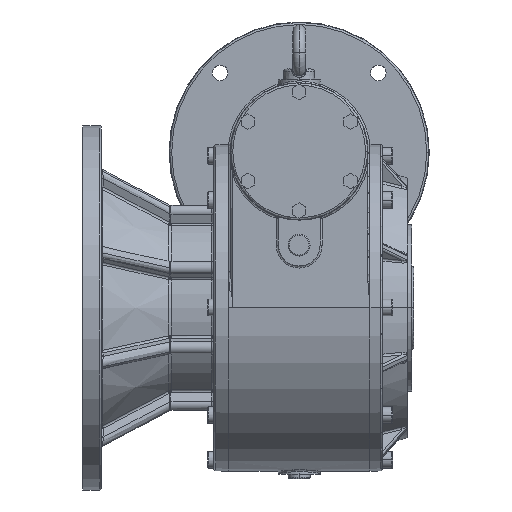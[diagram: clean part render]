
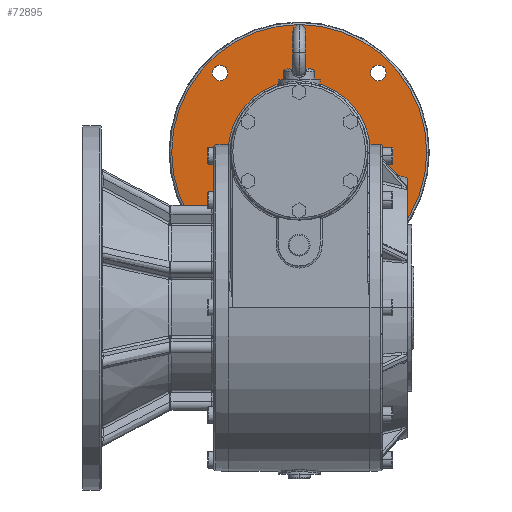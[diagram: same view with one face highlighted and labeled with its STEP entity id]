
A CAD part, top view. The second image highlights one B-rep face of the part: STEP entity #72895.
In plain terms, the highlighted planar face has unit normal (0, 0, 1).
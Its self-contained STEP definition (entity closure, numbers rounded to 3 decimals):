
#14905 = CARTESIAN_POINT ( 'NONE',  ( -68.514, 73.986, -173. ) ) ;
#14906 = CARTESIAN_POINT ( 'NONE',  ( -83.514, 73.986, -173. ) ) ;
#14907 = DIRECTION ( 'NONE',  ( -1., 0., 0. ) ) ;
#14908 = DIRECTION ( 'NONE',  ( 0., 0., 1. ) ) ;
#14909 = CARTESIAN_POINT ( 'NONE',  ( -76.014, 73.986, -173. ) ) ;
#14910 = AXIS2_PLACEMENT_3D ( 'NONE', #14909, #14908, #14907 ) ;
#14911 = CIRCLE ( 'NONE', #14910, 7.5 ) ;
#15012 = CARTESIAN_POINT ( 'NONE',  ( -68.514, 226.014, -173. ) ) ;
#15013 = CARTESIAN_POINT ( 'NONE',  ( -83.514, 226.014, -173. ) ) ;
#15014 = DIRECTION ( 'NONE',  ( -1., 0., 0. ) ) ;
#15015 = DIRECTION ( 'NONE',  ( 0., 0., 1. ) ) ;
#15016 = CARTESIAN_POINT ( 'NONE',  ( -76.014, 226.014, -173. ) ) ;
#15017 = AXIS2_PLACEMENT_3D ( 'NONE', #15016, #15015, #15014 ) ;
#15018 = CIRCLE ( 'NONE', #15017, 7.5 ) ;
#15069 = CARTESIAN_POINT ( 'NONE',  ( 83.514, 73.986, -173. ) ) ;
#15070 = CARTESIAN_POINT ( 'NONE',  ( 68.514, 73.986, -173. ) ) ;
#15071 = DIRECTION ( 'NONE',  ( -1., 0., 0. ) ) ;
#15073 = DIRECTION ( 'NONE',  ( 0., 0., 1. ) ) ;
#15074 = CARTESIAN_POINT ( 'NONE',  ( 76.014, 73.986, -173. ) ) ;
#15075 = AXIS2_PLACEMENT_3D ( 'NONE', #15074, #15073, #15071 ) ;
#15076 = CIRCLE ( 'NONE', #15075, 7.5 ) ;
#15101 = CARTESIAN_POINT ( 'NONE',  ( -68.281, 150., -173. ) ) ;
#15116 = CARTESIAN_POINT ( 'NONE',  ( 68.281, 150., -173. ) ) ;
#15122 = CARTESIAN_POINT ( 'NONE',  ( 83.514, 226.014, -173. ) ) ;
#15123 = CARTESIAN_POINT ( 'NONE',  ( 68.514, 226.014, -173. ) ) ;
#15124 = DIRECTION ( 'NONE',  ( -1., 0., 0. ) ) ;
#15125 = DIRECTION ( 'NONE',  ( 0., 0., 1. ) ) ;
#15127 = CARTESIAN_POINT ( 'NONE',  ( 76.014, 226.014, -173. ) ) ;
#15128 = AXIS2_PLACEMENT_3D ( 'NONE', #15127, #15125, #15124 ) ;
#15129 = CIRCLE ( 'NONE', #15128, 7.5 ) ;
#15193 = CARTESIAN_POINT ( 'NONE',  ( -122.545, 150., -173. ) ) ;
#15248 = DIRECTION ( 'NONE',  ( 1., 0., 0. ) ) ;
#15249 = DIRECTION ( 'NONE',  ( 0., 0., 1. ) ) ;
#15250 = CARTESIAN_POINT ( 'NONE',  ( 0., 150., -173. ) ) ;
#15251 = AXIS2_PLACEMENT_3D ( 'NONE', #15250, #15249, #15248 ) ;
#15252 = CIRCLE ( 'NONE', #15251, 122.545 ) ;
#17951 = CARTESIAN_POINT ( 'NONE',  ( 122.545, 150., -173. ) ) ;
#17968 = DIRECTION ( 'NONE',  ( 1., 0., 0. ) ) ;
#17969 = DIRECTION ( 'NONE',  ( 0., 0., 1. ) ) ;
#17970 = CARTESIAN_POINT ( 'NONE',  ( 0., 150., -173. ) ) ;
#17971 = AXIS2_PLACEMENT_3D ( 'NONE', #17970, #17969, #17968 ) ;
#17972 = CIRCLE ( 'NONE', #17971, 68.281 ) ;
#70315 = EDGE_CURVE ( 'NONE', #70317, #70318, #14911, .T. ) ;
#70317 = VERTEX_POINT ( 'NONE', #14906 ) ;
#70318 = VERTEX_POINT ( 'NONE', #14905 ) ;
#70365 = EDGE_CURVE ( 'NONE', #70367, #70368, #15018, .T. ) ;
#70367 = VERTEX_POINT ( 'NONE', #15013 ) ;
#70368 = VERTEX_POINT ( 'NONE', #15012 ) ;
#70372 = EDGE_CURVE ( 'NONE', #70374, #70375, #15076, .T. ) ;
#70374 = VERTEX_POINT ( 'NONE', #15070 ) ;
#70375 = VERTEX_POINT ( 'NONE', #15069 ) ;
#70392 = VERTEX_POINT ( 'NONE', #15101 ) ;
#70413 = EDGE_CURVE ( 'NONE', #70414, #70416, #15129, .T. ) ;
#70414 = VERTEX_POINT ( 'NONE', #15123 ) ;
#70416 = VERTEX_POINT ( 'NONE', #15122 ) ;
#70418 = VERTEX_POINT ( 'NONE', #15116 ) ;
#70438 = VERTEX_POINT ( 'NONE', #15193 ) ;
#70444 = VERTEX_POINT ( 'NONE', #17951 ) ;
#70466 = EDGE_CURVE ( 'NONE', #70444, #70438, #15252, .T. ) ;
#70495 = EDGE_CURVE ( 'NONE', #70392, #70418, #17972, .T. ) ;
#72818 = ORIENTED_EDGE ( 'NONE', *, *, #70372, .F. ) ;
#72819 = ORIENTED_EDGE ( 'NONE', *, *, #72821, .F. ) ;
#72821 = EDGE_CURVE ( 'NONE', #70375, #70374, #118403, .T. ) ;
#72822 = EDGE_LOOP ( 'NONE', ( #72823, #72857 ) ) ;
#72823 = ORIENTED_EDGE ( 'NONE', *, *, #70315, .F. ) ;
#72825 = EDGE_LOOP ( 'NONE', ( #72863, #72864 ) ) ;
#72857 = ORIENTED_EDGE ( 'NONE', *, *, #72861, .F. ) ;
#72861 = EDGE_CURVE ( 'NONE', #70318, #70317, #118450, .T. ) ;
#72863 = ORIENTED_EDGE ( 'NONE', *, *, #70365, .F. ) ;
#72864 = ORIENTED_EDGE ( 'NONE', *, *, #72866, .F. ) ;
#72866 = EDGE_CURVE ( 'NONE', #70368, #70367, #118443, .T. ) ;
#72867 = EDGE_LOOP ( 'NONE', ( #72868, #72870 ) ) ;
#72868 = ORIENTED_EDGE ( 'NONE', *, *, #70413, .F. ) ;
#72870 = ORIENTED_EDGE ( 'NONE', *, *, #72871, .F. ) ;
#72871 = EDGE_CURVE ( 'NONE', #70416, #70414, #118433, .T. ) ;
#72872 = EDGE_LOOP ( 'NONE', ( #72873, #72876 ) ) ;
#72873 = ORIENTED_EDGE ( 'NONE', *, *, #72874, .F. ) ;
#72874 = EDGE_CURVE ( 'NONE', #70418, #70392, #118428, .T. ) ;
#72876 = ORIENTED_EDGE ( 'NONE', *, *, #70495, .F. ) ;
#72877 = EDGE_LOOP ( 'NONE', ( #72913, #72914 ) ) ;
#72892 = EDGE_CURVE ( 'NONE', #70438, #70444, #118507, .T. ) ;
#72895 = ADVANCED_FACE ( 'NONE', ( #118501, #118500, #118499, #118498, #118497, #118496 ), #118495, .F. ) ;
#72897 = EDGE_LOOP ( 'NONE', ( #72818, #72819 ) ) ;
#72913 = ORIENTED_EDGE ( 'NONE', *, *, #70466, .T. ) ;
#72914 = ORIENTED_EDGE ( 'NONE', *, *, #72892, .T. ) ;
#118399 = DIRECTION ( 'NONE',  ( -1., 0., 0. ) ) ;
#118400 = DIRECTION ( 'NONE',  ( 0., 0., 1. ) ) ;
#118401 = CARTESIAN_POINT ( 'NONE',  ( 76.014, 73.986, -173. ) ) ;
#118402 = AXIS2_PLACEMENT_3D ( 'NONE', #118401, #118400, #118399 ) ;
#118403 = CIRCLE ( 'NONE', #118402, 7.5 ) ;
#118424 = DIRECTION ( 'NONE',  ( 1., 0., 0. ) ) ;
#118425 = DIRECTION ( 'NONE',  ( 0., 0., 1. ) ) ;
#118426 = CARTESIAN_POINT ( 'NONE',  ( 0., 150., -173. ) ) ;
#118427 = AXIS2_PLACEMENT_3D ( 'NONE', #118426, #118425, #118424 ) ;
#118428 = CIRCLE ( 'NONE', #118427, 68.281 ) ;
#118429 = DIRECTION ( 'NONE',  ( -1., 0., 0. ) ) ;
#118430 = DIRECTION ( 'NONE',  ( 0., 0., 1. ) ) ;
#118431 = CARTESIAN_POINT ( 'NONE',  ( 76.014, 226.014, -173. ) ) ;
#118432 = AXIS2_PLACEMENT_3D ( 'NONE', #118431, #118430, #118429 ) ;
#118433 = CIRCLE ( 'NONE', #118432, 7.5 ) ;
#118439 = DIRECTION ( 'NONE',  ( -1., 0., 0. ) ) ;
#118440 = DIRECTION ( 'NONE',  ( 0., 0., 1. ) ) ;
#118441 = CARTESIAN_POINT ( 'NONE',  ( -76.014, 226.014, -173. ) ) ;
#118442 = AXIS2_PLACEMENT_3D ( 'NONE', #118441, #118440, #118439 ) ;
#118443 = CIRCLE ( 'NONE', #118442, 7.5 ) ;
#118446 = DIRECTION ( 'NONE',  ( -1., 0., 0. ) ) ;
#118447 = DIRECTION ( 'NONE',  ( 0., 0., 1. ) ) ;
#118448 = CARTESIAN_POINT ( 'NONE',  ( -76.014, 73.986, -173. ) ) ;
#118449 = AXIS2_PLACEMENT_3D ( 'NONE', #118448, #118447, #118446 ) ;
#118450 = CIRCLE ( 'NONE', #118449, 7.5 ) ;
#118491 = DIRECTION ( 'NONE',  ( -1., 0., 0. ) ) ;
#118492 = DIRECTION ( 'NONE',  ( 0., 0., -1. ) ) ;
#118493 = CARTESIAN_POINT ( 'NONE',  ( 0., 218.281, -173. ) ) ;
#118494 = AXIS2_PLACEMENT_3D ( 'NONE', #118493, #118492, #118491 ) ;
#118495 = PLANE ( 'NONE',  #118494 ) ;
#118496 = FACE_OUTER_BOUND ( 'NONE', #72877, .T. ) ;
#118497 = FACE_BOUND ( 'NONE', #72872, .T. ) ;
#118498 = FACE_BOUND ( 'NONE', #72867, .T. ) ;
#118499 = FACE_BOUND ( 'NONE', #72825, .T. ) ;
#118500 = FACE_BOUND ( 'NONE', #72822, .T. ) ;
#118501 = FACE_BOUND ( 'NONE', #72897, .T. ) ;
#118503 = DIRECTION ( 'NONE',  ( 1., 0., 0. ) ) ;
#118504 = DIRECTION ( 'NONE',  ( 0., 0., 1. ) ) ;
#118505 = CARTESIAN_POINT ( 'NONE',  ( 0., 150., -173. ) ) ;
#118506 = AXIS2_PLACEMENT_3D ( 'NONE', #118505, #118504, #118503 ) ;
#118507 = CIRCLE ( 'NONE', #118506, 122.545 ) ;
